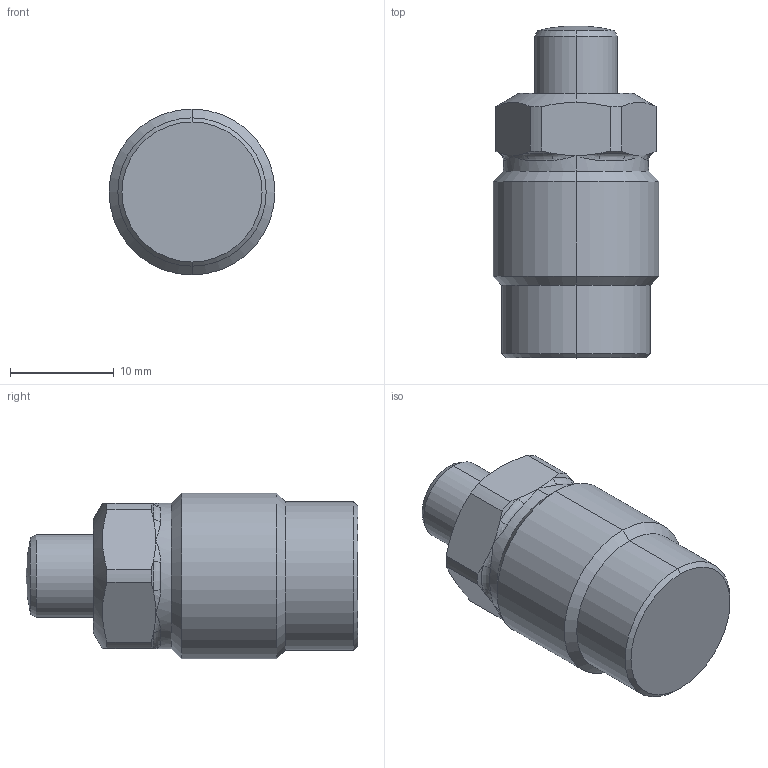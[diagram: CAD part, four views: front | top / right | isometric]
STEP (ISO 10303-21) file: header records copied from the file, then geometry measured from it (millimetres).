
FILE_DESCRIPTION((' '),'2;1');
FILE_NAME( 'CMC01-05R.x_t.stp', '2024-08-27T13:58:36', (' '), ('--- Datakit www.datakit.com---'), ' Datakit CrossCadWare V2024.1 Dec 21 2023', 'Mastercam 2025', ' ');
FILE_SCHEMA(('AUTOMOTIVE_DESIGN { 1 0 10303 214 1 1 1 1 }'));
Length unit declared in the file: millimetre
Products named in the file (1): CMC01-05R
Bounding box: 16 x 32 x 16 mm (x, y, z)
Volume: 4550.6 mm3; surface area: 1906.3 mm2
Topology: 2 solids, 2 shells, 62 faces, 155 edges, 84 vertices
Faces by surface type: cone 16, cylinder 16, bspline 12, plane 10, torus 6, sphere 2
Entity records: 3325 total; most frequent: CARTESIAN_POINT 1964, ORIENTED_EDGE 282, DIRECTION 264, EDGE_CURVE 141, AXIS2_PLACEMENT_3D 116, VERTEX_POINT 84, CIRCLE 65, EDGE_LOOP 63
